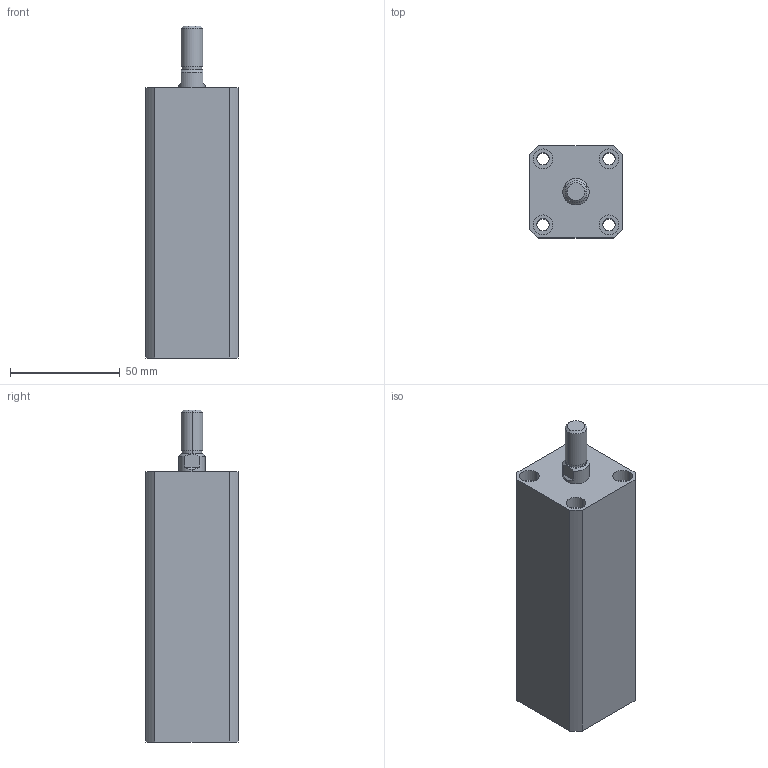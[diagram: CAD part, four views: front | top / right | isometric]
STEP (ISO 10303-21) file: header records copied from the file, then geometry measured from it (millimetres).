
FILE_DESCRIPTION (( 'STEP AP203' ), '1' );
FILE_NAME ('HTB-SDMB20-80W.STEP', '2019-10-09T00:09:56', ( '微软用户' ), ( '微软中国' ), 'SwSTEP 2.0', 'SolidWorks 2012', '' );
FILE_SCHEMA (( 'CONFIG_CONTROL_DESIGN' ));
Length unit declared in the file: millimetre
Products named in the file (3): HTB-SDMB20-80W; HTB-SDMB20-80W活塞杆; HTB-SDMB20-80掛极
Assembly tree (2 placements, depth 2):
  HTB-SDMB20-80W
    HTB-SDMB20-80掛极
    HTB-SDMB20-80W活塞杆
Bounding box: 42 x 42 x 151 mm (x, y, z)
Volume: 185450.1 mm3; surface area: 45446.8 mm2
Topology: 2 solids, 2 shells, 140 faces, 332 edges, 218 vertices
Faces by surface type: plane 66, cylinder 48, bspline 16, torus 6, cone 4
Entity records: 5129 total; most frequent: CARTESIAN_POINT 1587, ORIENTED_EDGE 664, DIRECTION 662, EDGE_CURVE 332, AXIS2_PLACEMENT_3D 241, VERTEX_POINT 218, LINE 180, VECTOR 180
